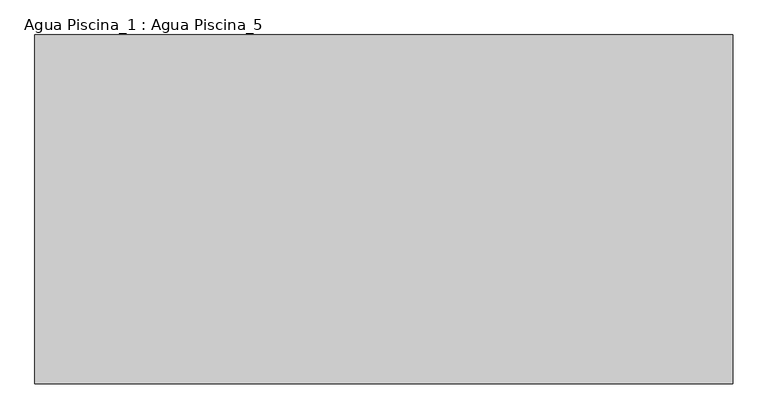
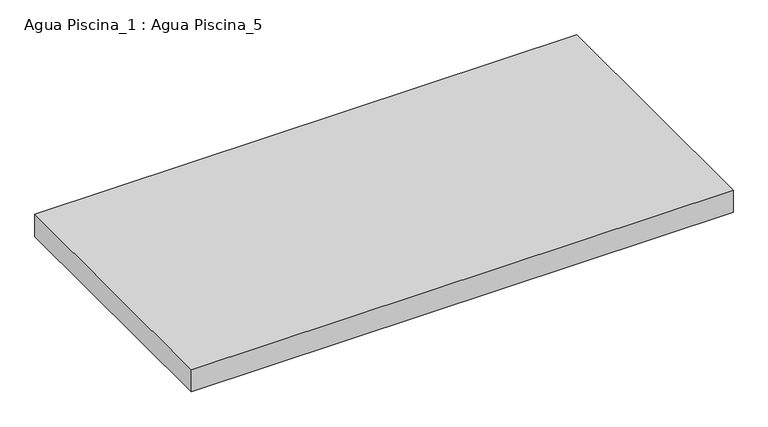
"""IFC4 building model written with IfcOpenShell, lengths in millimetres: proxy geometry, Agua Piscina_1 : Agua Piscina_5."""

from ifc_helpers import new_model, si_unit, frame, origin, place, context, project, spatial, polyline, outline, extrude, source, transform, mapped, element, save


def agua_piscina_1_agua_piscina_5_0a4dd42f(model_context):
    return source(origin(), model_context, "Body", "SweptSolid", [
        extrude(outline(polyline([(-6726.7111281, -27323.9254669), (-6726.7111281, -31323.9254669), (-14726.7111281, -31323.9254669), (-14726.7111281, -27323.9254669), (-6726.7111281, -27323.9254669)])), frame((0.0, 0.0, -486.6767702), z_axis=(0.0, 0.0, 1.0), x_axis=(1.0, 0.0, 0.0)), (0.0, 0.0, 1.0), 346.2749574),
    ])


if __name__ == "__main__":
    model = new_model("IFC4")
    model_context = context("Model", 3, world=origin())
    ifc_project = project(units=[si_unit("LENGTHUNIT", "METRE", prefix="MILLI")], contexts=[model_context])
    site = spatial("IfcSite", under=ifc_project)
    building = spatial("IfcBuilding", under=site)
    placement = place(None, origin())
    agua_piscina_1_agua_piscina_5_shape = agua_piscina_1_agua_piscina_5_0a4dd42f(model_context)
    element("IfcBuildingElementProxy", 1, Name="Agua Piscina_1 : Agua Piscina_5", ObjectType="Agua Piscina_1 : Agua Piscina_5", at=placement, inside=building, context=model_context, shape_type="MappedRepresentation", body=[
        mapped(agua_piscina_1_agua_piscina_5_shape, transform((0.0, 0.0, 0.0), x_axis=(1.0, 0.0, 0.0), y_axis=(0.0, 1.0, 0.0), z_axis=(0.0, 0.0, 1.0))),
    ])
    save(model, "model.ifc")
